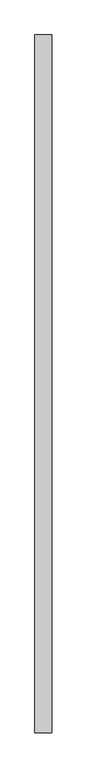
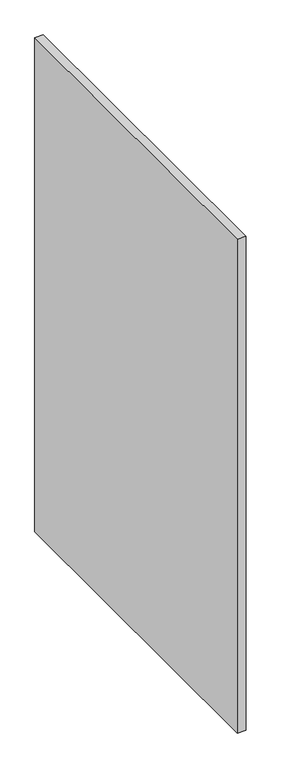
"""IFC4 building model written with IfcOpenShell, lengths in millimetres: furniture geometry, Divisoria_Lateral Fechada : Divisoria_Lateral Fechada_130x180."""

from ifc_helpers import new_model, si_unit, frame, origin, place, context, project, spatial, polyline, outline, extrude, source, transform, mapped, element, save


def furniture_11f150b7(model_context):
    return source(origin(), model_context, "Body", "SweptSolid", [
        extrude(outline(polyline([(59.7003264, 50.0), (59.7003264, -1194.0619027), (29.7003264, -1194.0619027), (29.7003264, 50.0), (59.7003264, 50.0)])), frame((0.0, 0.0, 50.0), z_axis=(0.0, 0.0, 1.0), x_axis=(1.0, 0.0, 0.0)), (0.0, 0.0, 1.0), 1850.0),
    ])


if __name__ == "__main__":
    model = new_model("IFC4")
    model_context = context("Model", 3, world=origin())
    ifc_project = project(units=[si_unit("LENGTHUNIT", "METRE", prefix="MILLI")], contexts=[model_context])
    site = spatial("IfcSite", under=ifc_project)
    building = spatial("IfcBuilding", under=site)
    placement = place(None, origin())
    furniture_shape = furniture_11f150b7(model_context)
    element("IfcFurniture", 1, ObjectType="Divisoria_Lateral Fechada : Divisoria_Lateral Fechada_130x180", at=placement, inside=building, context=model_context, shape_type="MappedRepresentation", body=[
        mapped(furniture_shape, transform((0.0, 0.0, 0.0), x_axis=(1.0, 0.0, 0.0), y_axis=(0.0, 1.0, 0.0), z_axis=(0.0, 0.0, 1.0))),
    ])
    save(model, "model.ifc")
